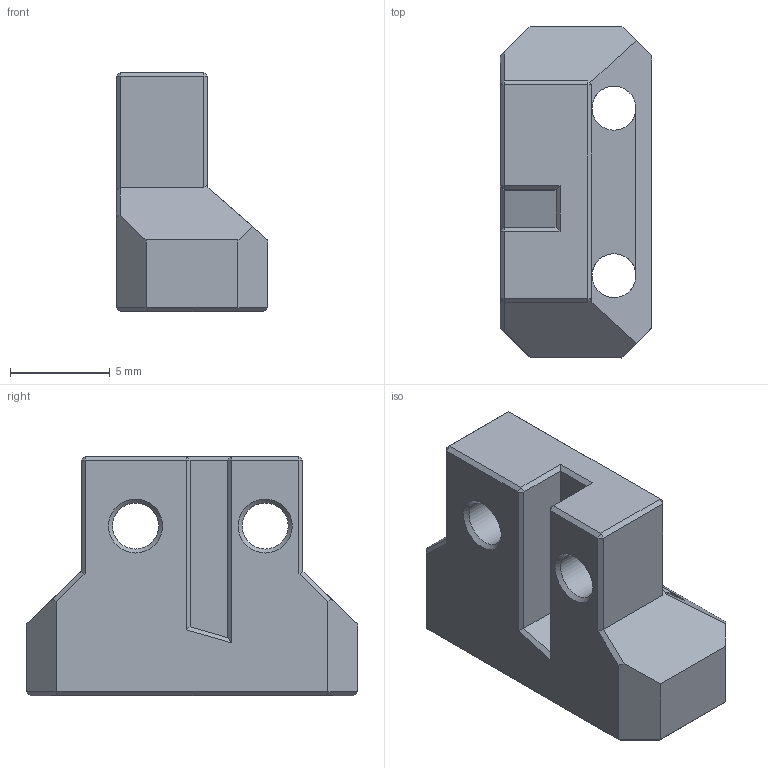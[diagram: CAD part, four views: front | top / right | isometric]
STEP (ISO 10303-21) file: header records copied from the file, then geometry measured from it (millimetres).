
FILE_DESCRIPTION(/* description */ (''),/* implementation_level */ '2;1');
FILE_NAME(/* name */ 'ZeroClick_Mount_x1.step',/* time_stamp */ '2023-12-26T11:59:11+01:00',/* author */ (''),/* organization */ (''),/* preprocessor_version */ 'ST-DEVELOPER v20',/* originating_system */ 'Autodesk Translation Framework v12.14.0.127',/* authorisation */ '');
FILE_SCHEMA (('AUTOMOTIVE_DESIGN { 1 0 10303 214 3 1 1 }'));
Length unit declared in the file: millimetre
Products named in the file (1): ZeroClick_Mount_x1
Bounding box: 7.6 x 16.6 x 12 mm (x, y, z)
Volume: 696.5 mm3; surface area: 843 mm2
Topology: 1 solids, 1 shells, 66 faces, 158 edges, 92 vertices
Faces by surface type: plane 54, cone 6, cylinder 6
Full cylindrical faces by diameter (mm): 2.2 x2, 2.3 x2, 6.05 x2
Entity records: 1904 total; most frequent: DIRECTION 318, CARTESIAN_POINT 317, ORIENTED_EDGE 316, EDGE_CURVE 158, LINE 132, VECTOR 132, AXIS2_PLACEMENT_3D 93, VERTEX_POINT 92
